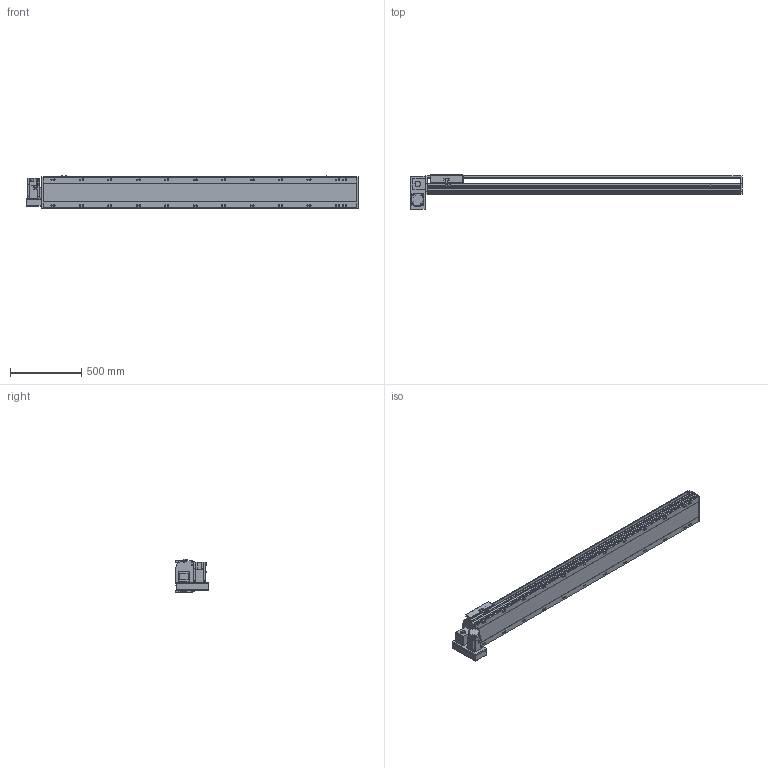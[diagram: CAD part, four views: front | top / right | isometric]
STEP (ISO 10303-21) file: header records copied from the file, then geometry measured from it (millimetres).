
FILE_DESCRIPTION(/* description */ ('STEP AP214'),/* implementation_level */ '2;1');
FILE_NAME(/* name */ 'PBS220-P40-S1850-LD-T75-C1-N(0)',/* time_stamp */ '2022-06-27T09:45:18+02:00',/* author */ ('License CC BY-ND 4.0'),/* organization */ ('CADENAS'),/* preprocessor_version */ 'ST-DEVELOPER v18.102',/* originating_system */ 'PARTsolutions',/* authorisation */ ' ');
FILE_SCHEMA (('AUTOMOTIVE_DESIGN {1 0 10303 214 3 1 1}'));
Length unit declared in the file: millimetre
Products named in the file (7): PBS220-P40-S1850-LD-T75-C1-N(0); PBS220_sensor; PBS220_plant; PBS220_sliser; T75-p1; PBS220T-LD_motors; PBS220-S1850()_body
Assembly tree (8 placements, depth 2):
  PBS220-P40-S1850-LD-T75-C1-N(0)
    PBS220_sensor  x3
    PBS220_plant
    PBS220_sliser
    T75-p1
    PBS220T-LD_motors
    PBS220-S1850()_body
Bounding box: 2334 x 239 x 238.5 mm (x, y, z)
Volume: 32899158.5 mm3; surface area: 3076203.4 mm2
Topology: 8 solids, 8 shells, 962 faces, 2508 edges, 1630 vertices
Faces by surface type: plane 614, cylinder 300, cone 48
Full cylindrical faces by diameter (mm): 2.013 x4, 4.5 x14, 4.917 x4, 6 x7, 6.647 x8, 8 x10, 8.376 x24, 8.5 x24, 10 x6, 14 x24, 38 x2, 40 x1, 70 x1
Entity records: 26876 total; most frequent: CARTESIAN_POINT 4756, DIRECTION 4671, ORIENTED_EDGE 4250, EDGE_CURVE 2125, AXIS2_PLACEMENT_3D 1659, VERTEX_POINT 1480, LINE 1353, VECTOR 1353
